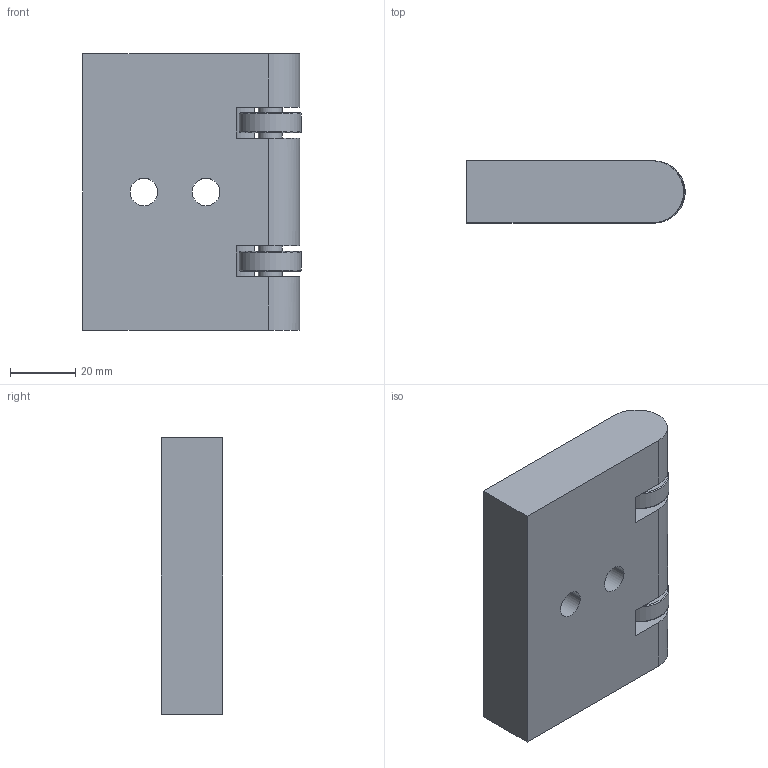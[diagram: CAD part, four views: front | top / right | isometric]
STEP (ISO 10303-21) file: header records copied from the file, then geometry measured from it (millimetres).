
FILE_DESCRIPTION(('CATIA V5 STEP Exchange'),'2;1');
FILE_NAME('S:\3D e 2D per Clienti\3D definitivi\Part 200\P22811_01.stp','2017-11-06T13:29:08+00:00',('none'),('none'),'Version 5-6 Release 2012','CATIA V5 STEP AP203','none');
FILE_SCHEMA(('CONFIG_CONTROL_DESIGN'));
Length unit declared in the file: millimetre
Products named in the file (1): 1
Bounding box: 67 x 19 x 84.8 mm (x, y, z)
Volume: 98186.9 mm3; surface area: 19472 mm2
Topology: 1 solids, 1 shells, 52 faces, 126 edges, 80 vertices
Faces by surface type: cylinder 25, plane 15, torus 8, cone 4
Entity records: 1581 total; most frequent: CARTESIAN_POINT 350, ORIENTED_EDGE 252, DIRECTION 209, EDGE_CURVE 126, AXIS2_PLACEMENT_3D 109, VERTEX_POINT 80, EDGE_LOOP 64, CIRCLE 63
